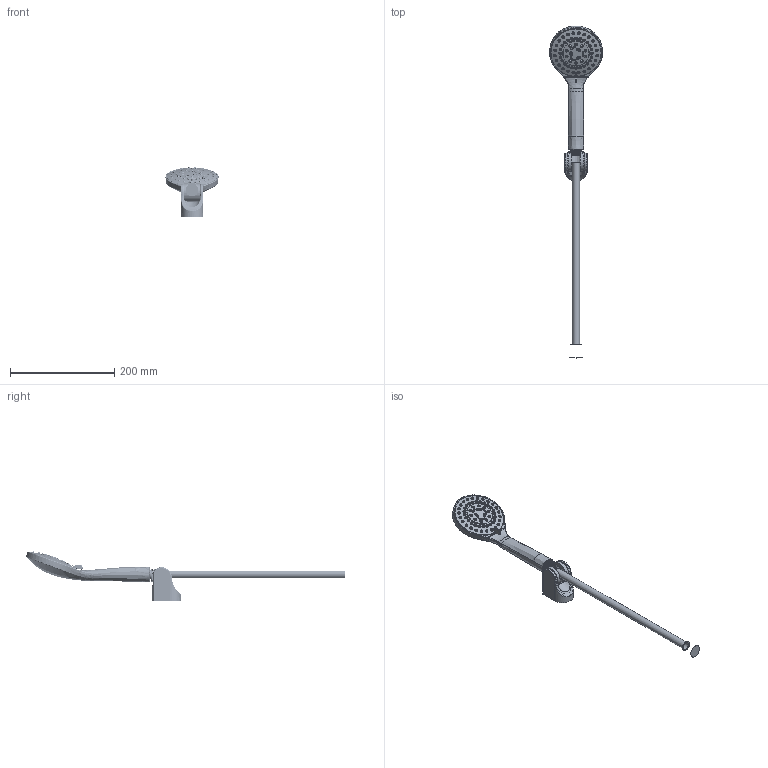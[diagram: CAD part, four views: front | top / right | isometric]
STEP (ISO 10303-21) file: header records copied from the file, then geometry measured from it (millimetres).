
FILE_DESCRIPTION(/* description */ (''),/* implementation_level */ '2;1');
FILE_NAME(/* name */ 'D:\Omnires\Export_Omnires\rys_step\5901867778970_stp.stp',/* time_stamp */ '2020-07-27T14:04:08+02:00',/* author */ (''),/* organization */ (''),/* preprocessor_version */ 'ST-DEVELOPER v18.1',/* originating_system */ 'Autodesk Inventor 2020',/* authorisation */ '');
FILE_SCHEMA (('AUTOMOTIVE_DESIGN { 1 0 10303 214 3 1 1 }'));
Products named in the file (1): 5901867778970_dwg
Bounding box: 101.78 x 636.94 x 95.38 mm (x, y, z)
Surface area: 195317.5 mm2 (no closed solid volume)
Topology: 0 solids, 21 shells, 3255 faces, 8891 edges, 5790 vertices
Faces by surface type: plane 1154, cylinder 711, bspline 647, torus 378, cone 277, sphere 88
Full cylindrical faces by diameter (mm): 1.2 x10, 2 x8, 2.5 x9, 3 x14, 3.2 x2, 4.2 x7, 4.4 x2, 4.8 x1, 5 x48, 5.5 x3, 6 x10, 7.4 x2, 8 x1, 10.3 x2, 11.8 x1, 12.5 x2, 12.8 x1, 12.9 x1, 13.6 x1, 13.9 x2, 14 x2, 15 x1, 15.5 x2, 16.5 x1, 18 x1, 18.9 x1, 20.4 x6, 27.2 x1, 31.2 x1, 32 x2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
Entity records: 219344 total; most frequent: CARTESIAN_POINT 136155, ORIENTED_EDGE 17716, DIRECTION 15748, EDGE_CURVE 8858, AXIS2_PLACEMENT_3D 6390, VERTEX_POINT 5790, EDGE_LOOP 3754, CIRCLE 3321
